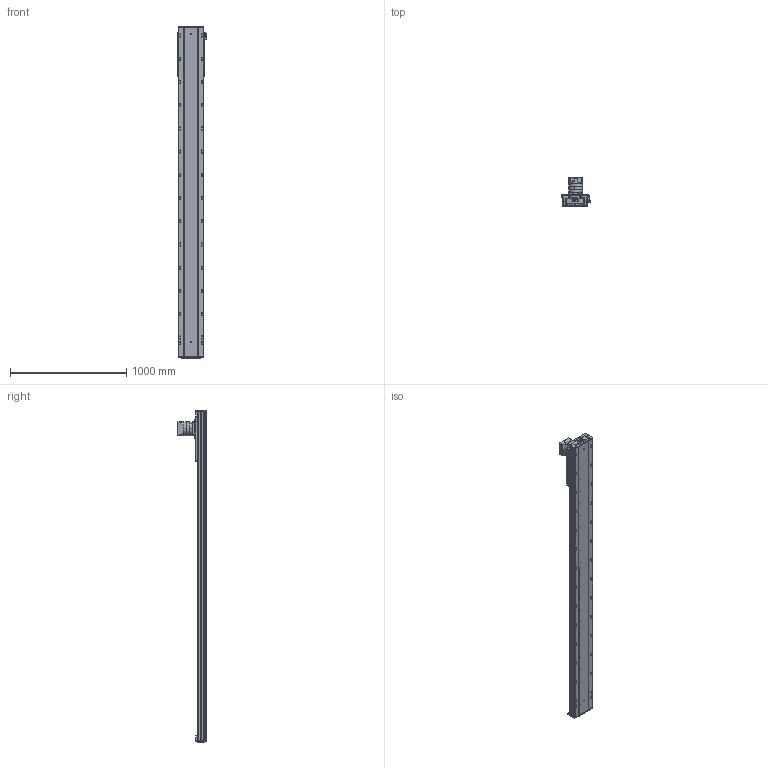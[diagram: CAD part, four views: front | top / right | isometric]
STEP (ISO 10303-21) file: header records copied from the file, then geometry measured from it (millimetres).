
FILE_DESCRIPTION (( 'STEP AP203' ), '1' );
FILE_NAME ('RY220-C-300-UK.SLDASM_2350.step', '2022-08-01T06:00:05', ( '' ), ( '' ), 'SwSTEP 2.0', 'SolidWorks 2016', '' );
FILE_SCHEMA (( 'CONFIG_CONTROL_DESIGN' ));
Length unit declared in the file: millimetre
Products named in the file (10): RY220-C-300-UK.SLDASM_2350; RY140直线电机感应器674光电安装座; 滅袉蝶輸ㄗG412隅秶ㄘ; PF115L1-S2-22-58-110-145-M8; RY220喘沭俋离覜茼え; RY220菁釱MK-300_2350; RY220-齿条模组电机安装板; RY220喘沭賑輸; 覜茼ん674; RY220喘沭綴裔啣
Assembly tree (12 placements, depth 2):
  RY220-C-300-UK.SLDASM_2350
    RY220菁釱MK-300_2350
    RY220喘沭賑輸
    RY220-齿条模组电机安装板
    PF115L1-S2-22-58-110-145-M8
    RY220喘沭綴裔啣  x2
    滅袉蝶輸ㄗG412隅秶ㄘ  x2
    RY140直线电机感应器674光电安装座
    覜茼ん674  x2
    RY220喘沭俋离覜茼え
Bounding box: 247 x 244.5 x 2859 mm (x, y, z)
Volume: 19657047.1 mm3; surface area: 4019883.2 mm2
Topology: 18 solids, 26 shells, 2288 faces, 6165 edges, 3863 vertices
Faces by surface type: cylinder 1105, plane 751, cone 270, bspline 162
Entity records: 72821 total; most frequent: CARTESIAN_POINT 19839, DIRECTION 10935, ORIENTED_EDGE 10690, EDGE_CURVE 5345, AXIS2_PLACEMENT_3D 4187, VERTEX_POINT 3489, EDGE_LOOP 2670, VECTOR 2561
